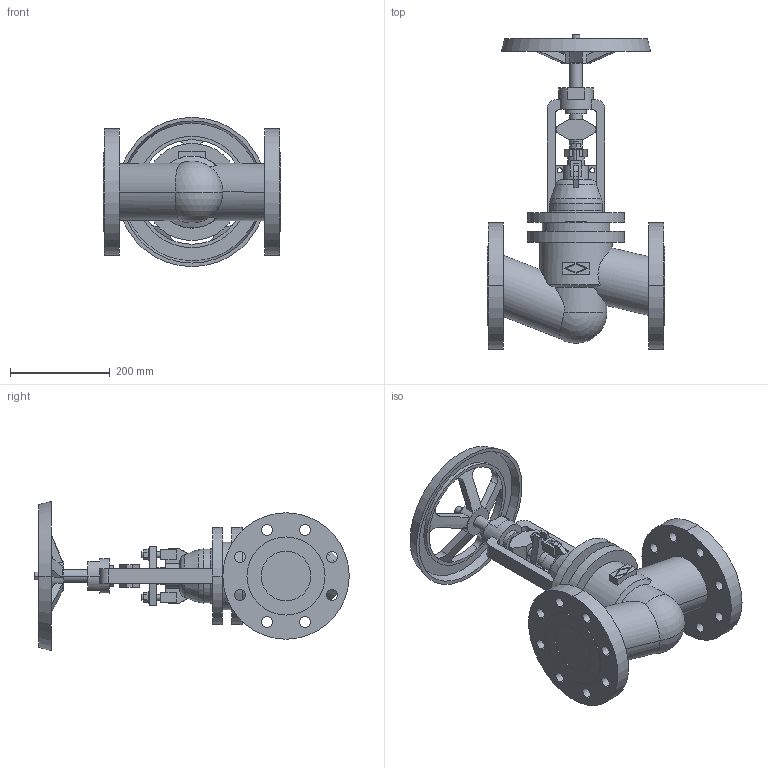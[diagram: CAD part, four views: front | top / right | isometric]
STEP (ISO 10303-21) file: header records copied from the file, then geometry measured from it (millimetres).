
FILE_DESCRIPTION(('OneSpaceDesigner STEP Export'),'2;1');
FILE_NAME('c000004218.stp','2010-04-30T 9:45:42',(''),(''),'OneSpace Designer STEP processor for AP214 (Solid Model)','OneSpace Modeling 15.50B 03-Nov-2007 (C) CoCreate Software GmbH','');
FILE_SCHEMA(('AUTOMOTIVE_DESIGN { 1 0 10303 214 1 1 1 1 }'));
Length unit declared in the file: millimetre
Products named in the file (1): 1
Bounding box: 356 x 631.9 x 300 mm (x, y, z)
Volume: 10808634.2 mm3; surface area: 774694.8 mm2
Topology: 1 solids, 1 shells, 310 faces, 822 edges, 537 vertices
Faces by surface type: plane 149, cylinder 125, cone 22, torus 12, sphere 2
Entity records: 12264 total; most frequent: CARTESIAN_POINT 2487, ORIENTED_EDGE 1640, DIRECTION 1335, EDGE_CURVE 820, VERTEX_POINT 537, AXIS2_PLACEMENT_3D 454, VECTOR 427, LINE 427
